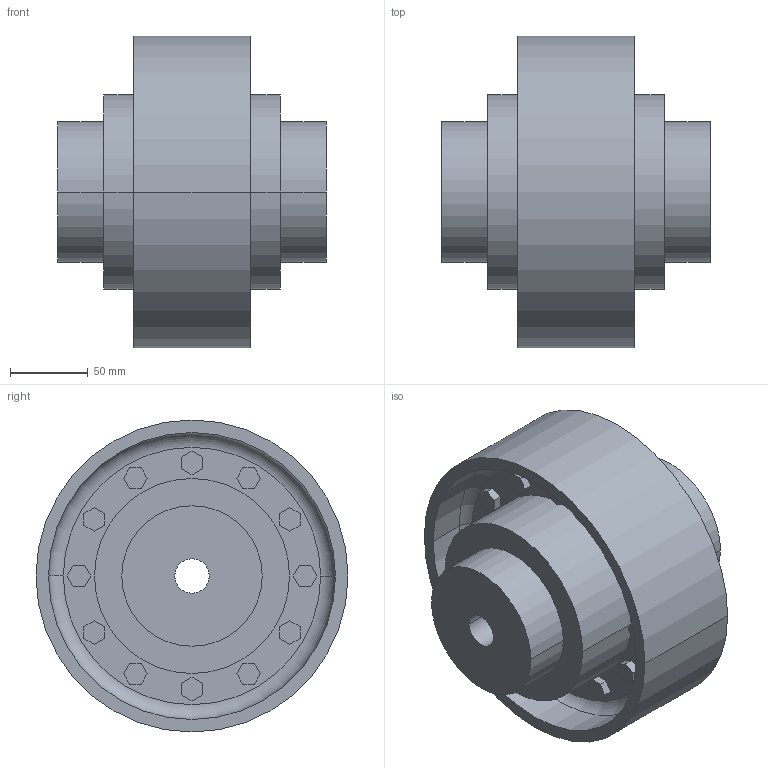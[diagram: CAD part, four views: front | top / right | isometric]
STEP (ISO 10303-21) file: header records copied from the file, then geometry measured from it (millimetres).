
FILE_DESCRIPTION((''),'2;1');
FILE_NAME('A19109000-0_ASM','2018-11-12T',('AB_Roschiwal'),('RENK AG'),'PRO/ENGINEER BY PARAMETRIC TECHNOLOGY CORPORATION, 2015440','PRO/ENGINEER BY PARAMETRIC TECHNOLOGY CORPORATION, 2015440','');
FILE_SCHEMA(('CONFIG_CONTROL_DESIGN'));
Length unit declared in the file: millimetre
Products named in the file (4): LBKD60_GEHAEUSE; LBKD60_NABE; LBKD60_BREMSSCHEIBE; A19109000-0_ASM
Assembly tree (4 placements, depth 2):
  A19109000-0_ASM
    LBKD60_GEHAEUSE
    LBKD60_NABE  x2
    LBKD60_BREMSSCHEIBE
Bounding box: 172 x 200 x 200 mm (x, y, z)
Volume: 2167164 mm3; surface area: 371871.6 mm2
Topology: 4 solids, 4 shells, 292 faces, 704 edges, 468 vertices
Faces by surface type: plane 200, cylinder 88, torus 4
Entity records: 8356 total; most frequent: DIRECTION 1424, CARTESIAN_POINT 1420, ORIENTED_EDGE 1360, EDGE_CURVE 680, VECTOR 512, LINE 512, AXIS2_PLACEMENT_3D 456, VERTEX_POINT 452
